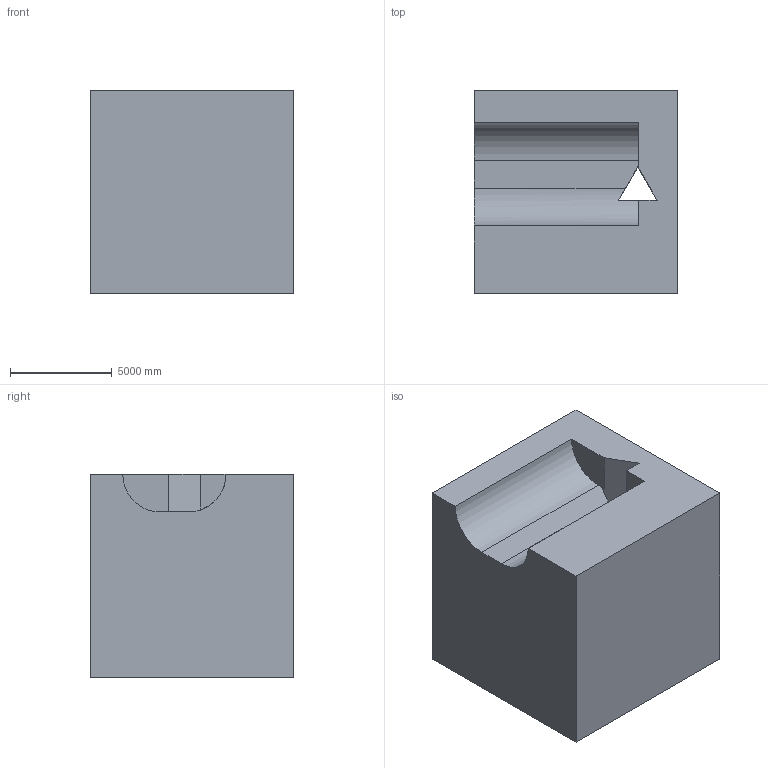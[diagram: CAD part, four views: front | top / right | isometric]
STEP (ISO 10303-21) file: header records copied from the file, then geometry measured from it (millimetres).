
FILE_DESCRIPTION (( 'STEP AP203' ), '1' );
FILE_NAME ('29.STEP', '2022-08-30T14:05:11', ( 'user' ), ( '' ), 'SwSTEP 2.0', 'SolidWorks 2021', '' );
FILE_SCHEMA (( 'CONFIG_CONTROL_DESIGN' ));
Length unit declared in the file: centimetre
Products named in the file (1): 29
Bounding box: 10000 x 10000 x 10000 mm (x, y, z)
Volume: 890542265376.6 mm3; surface area: 686775141.6 mm2
Topology: 1 solids, 1 shells, 22 faces, 63 edges, 42 vertices
Faces by surface type: plane 20, cylinder 2
Entity records: 792 total; most frequent: CARTESIAN_POINT 131, ORIENTED_EDGE 126, DIRECTION 112, EDGE_CURVE 63, VECTOR 58, LINE 58, VERTEX_POINT 42, AXIS2_PLACEMENT_3D 27
